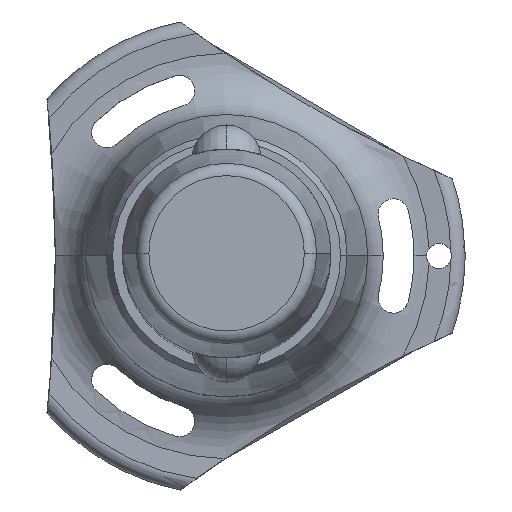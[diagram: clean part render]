
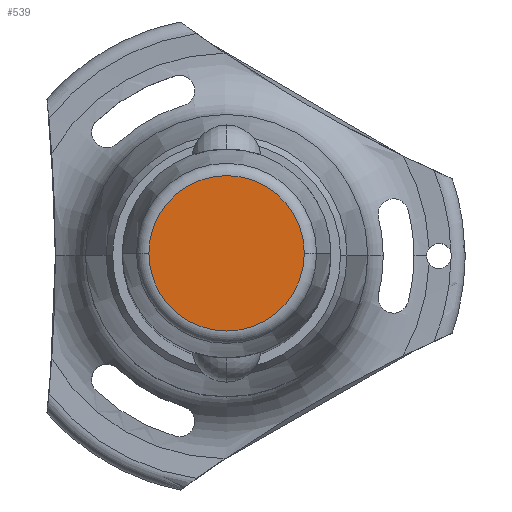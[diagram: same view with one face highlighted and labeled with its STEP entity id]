
A CAD part, top view. The second image highlights one B-rep face of the part: STEP entity #539.
In plain terms, the highlighted planar face has unit normal (0, 0, 1).
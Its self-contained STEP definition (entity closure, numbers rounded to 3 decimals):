
#85 = ORIENTED_EDGE ( 'NONE', *, *, #160, .T. ) ;
#160 = EDGE_CURVE ( 'NONE', #2597, #1873, #1763, .T. ) ;
#187 = CARTESIAN_POINT ( 'NONE',  ( 0., 0., 22. ) ) ;
#450 = CARTESIAN_POINT ( 'NONE',  ( -9.302, 0., 22. ) ) ;
#539 = ADVANCED_FACE ( 'NONE', ( #1631 ), #1401, .T. ) ;
#712 = DIRECTION ( 'NONE',  ( 0., 0., 1. ) ) ;
#949 = AXIS2_PLACEMENT_3D ( 'NONE', #187, #1095, #2909 ) ;
#1007 = DIRECTION ( 'NONE',  ( 1., 0., 0. ) ) ;
#1095 = DIRECTION ( 'NONE',  ( 0., 0., 1. ) ) ;
#1375 = DIRECTION ( 'NONE',  ( 1., 0., 0. ) ) ;
#1401 = PLANE ( 'NONE',  #2379 ) ;
#1574 = EDGE_CURVE ( 'NONE', #1873, #2597, #1871, .T. ) ;
#1631 = FACE_OUTER_BOUND ( 'NONE', #1831, .T. ) ;
#1634 = CARTESIAN_POINT ( 'NONE',  ( 9.302, 0., 22. ) ) ;
#1763 = CIRCLE ( 'NONE', #949, 9.302 ) ;
#1831 = EDGE_LOOP ( 'NONE', ( #2146, #85 ) ) ;
#1871 = CIRCLE ( 'NONE', #2620, 9.302 ) ;
#1873 = VERTEX_POINT ( 'NONE', #1634 ) ;
#2146 = ORIENTED_EDGE ( 'NONE', *, *, #1574, .T. ) ;
#2305 = DIRECTION ( 'NONE',  ( 0., 0., 1. ) ) ;
#2379 = AXIS2_PLACEMENT_3D ( 'NONE', #2506, #712, #1375 ) ;
#2506 = CARTESIAN_POINT ( 'NONE',  ( 0., 0., 22. ) ) ;
#2597 = VERTEX_POINT ( 'NONE', #450 ) ;
#2620 = AXIS2_PLACEMENT_3D ( 'NONE', #2789, #2305, #1007 ) ;
#2789 = CARTESIAN_POINT ( 'NONE',  ( 0., 0., 22. ) ) ;
#2909 = DIRECTION ( 'NONE',  ( 1., 0., 0. ) ) ;
